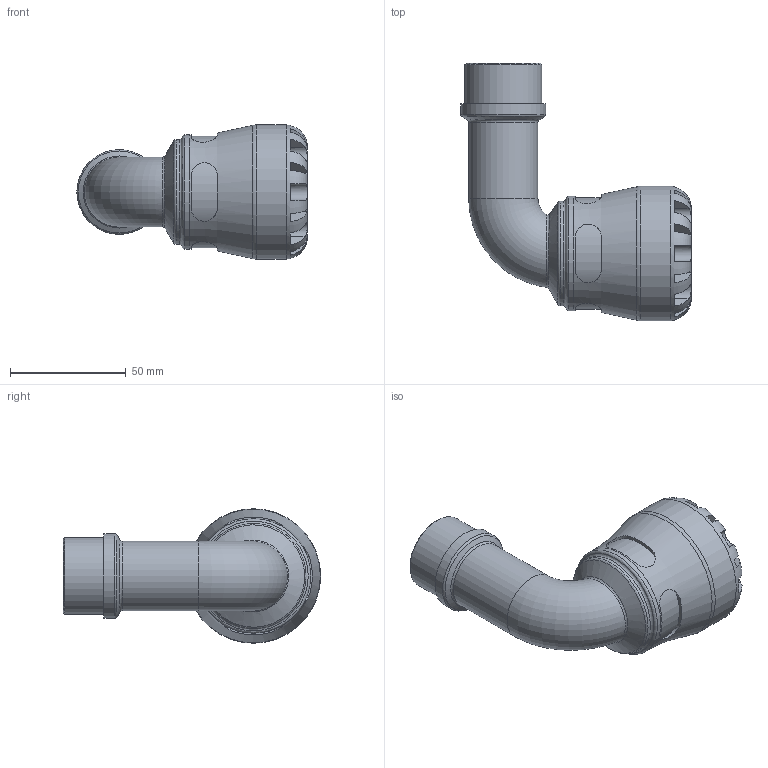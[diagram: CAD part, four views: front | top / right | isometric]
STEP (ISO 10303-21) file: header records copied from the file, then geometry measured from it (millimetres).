
FILE_DESCRIPTION(/* description */ ('PLASSON 90° ELBOW WITH MALE INTEGRAL BRASS 32X1" SERIES 1'),/* implementation_level */ '2;1');
FILE_NAME(/* name */ 'C:\Dropbox\KIMPROJECTS-Inventor\99-16-3568-Processing\1077\107700032010_197700032010.ipt.stp',/* time_stamp */ '2017-01-22T11:54:26+02:00',/* author */ ('KIM'),/* organization */ (''),/* preprocessor_version */ 'ST-DEVELOPER v15.6',/* originating_system */ 'Autodesk Inventor 2015',/* authorisation */ '');
FILE_SCHEMA (('AUTOMOTIVE_DESIGN { 1 0 10303 214 3 1 1 }'));
Length unit declared in the file: millimetre
Products named in the file (1): 107700032010_197700032010
Bounding box: 99.29 x 111 x 58 mm (x, y, z)
Volume: 112809.3 mm3; surface area: 36411.7 mm2
Topology: 1 solids, 1 shells, 112 faces, 275 edges, 170 vertices
Faces by surface type: plane 60, cylinder 37, torus 9, cone 3, bspline 3
Full cylindrical faces by diameter (mm): 23.274 x2, 29.924 x1, 32 x1, 33.249 x1, 36.574 x1, 45.24 x1, 49.3 x1, 58 x1
Entity records: 4358 total; most frequent: CARTESIAN_POINT 1782, DIRECTION 495, ORIENTED_EDGE 492, EDGE_CURVE 246, AXIS2_PLACEMENT_3D 207, VERTEX_POINT 163, EDGE_LOOP 141, STYLED_ITEM 113
